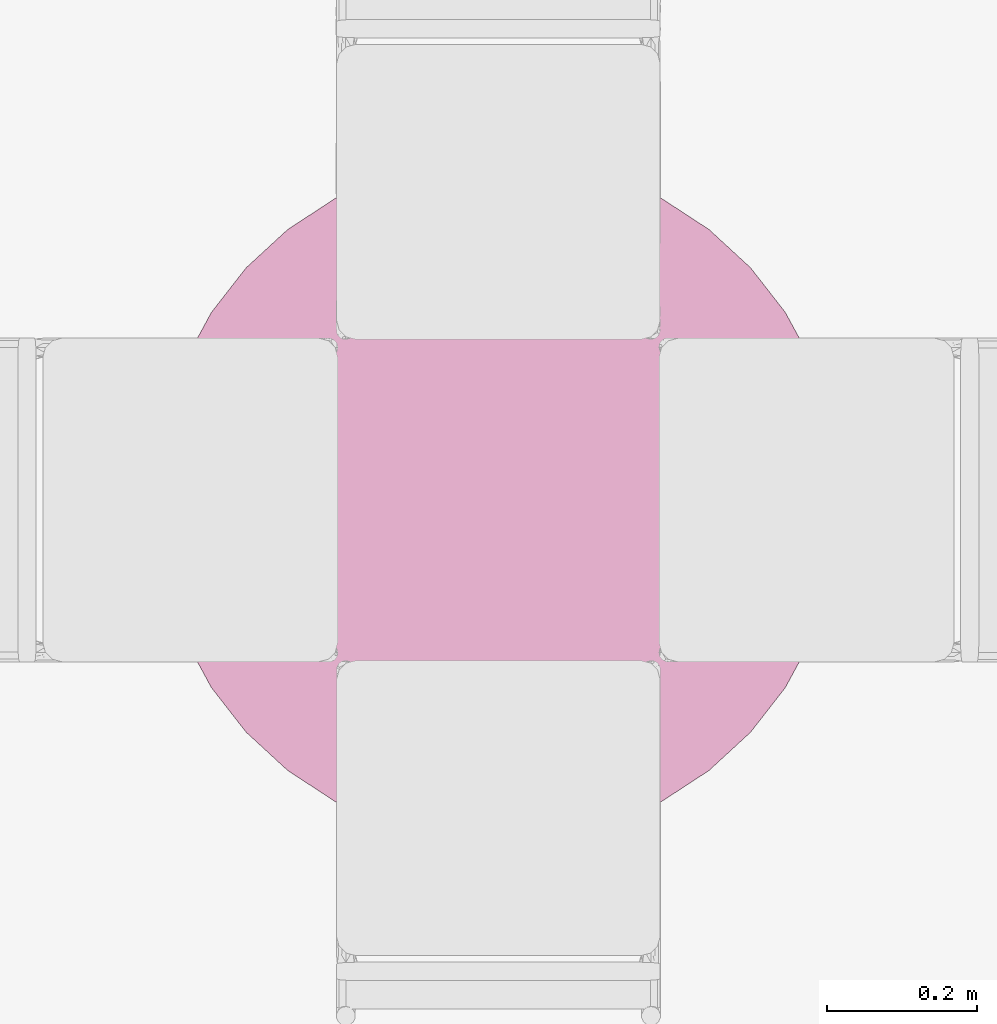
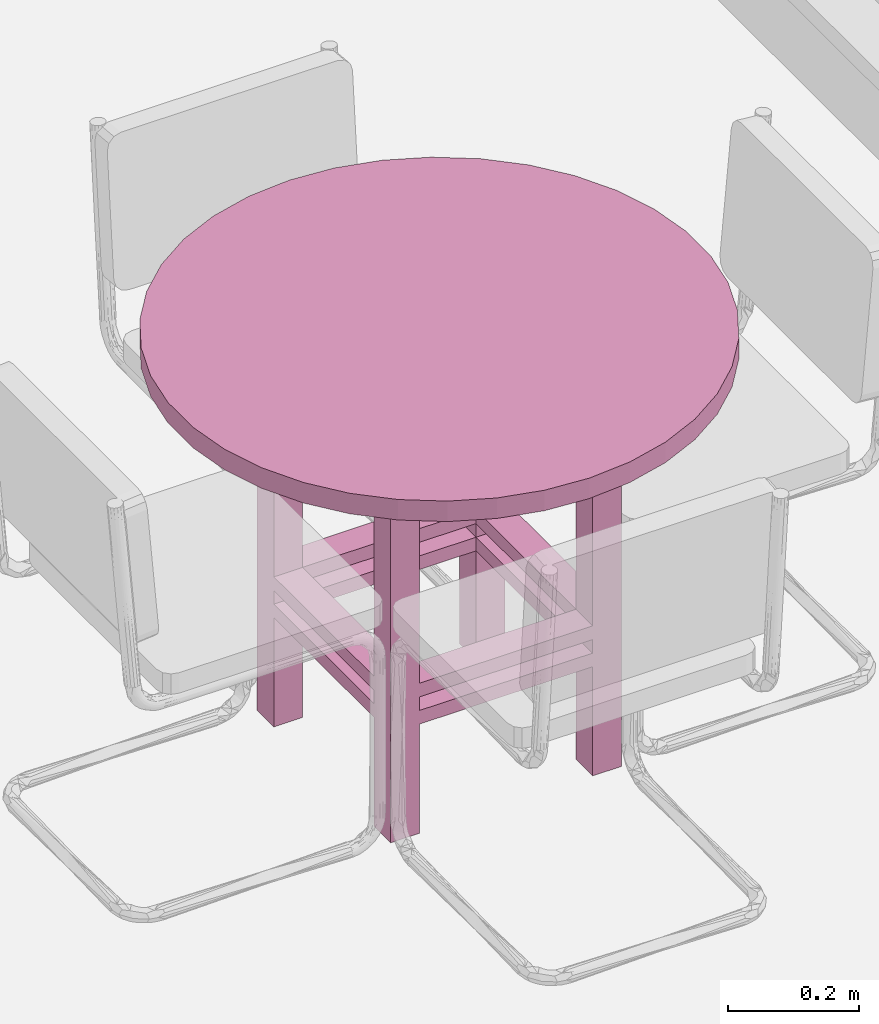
# One storey, part 10 of 11: 1 furnishing.
"""IFC2X3 building model written with IfcOpenShell, lengths in metres."""

from ifc_helpers import new_model, entity, si_unit, converted_unit, derived_unit, direction, frame, origin, place, context, subcontext, project, spatial, faceted_brep, source, transform, mapped, material, material_list, type_object, type_shapes, element, save


model = new_model("IFC2X3")

# Units and contexts
model_context = context("Model", 3, precision=1e-05, world=origin(), true_north=direction((6.12303176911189e-17, 1.0)))
body_context = subcontext(model_context, "Body", "Model", "MODEL_VIEW")
ifc_project = project(units=[si_unit("LENGTHUNIT", "METRE"), si_unit("AREAUNIT", "SQUARE_METRE"), si_unit("VOLUMEUNIT", "CUBIC_METRE"), converted_unit("PLANEANGLEUNIT", "DEGREE", entity("IfcRatioMeasure", 0.0174532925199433), si_unit("PLANEANGLEUNIT", "RADIAN"), dimensions=[0, 0, 0, 0, 0, 0, 0]), si_unit("MASSUNIT", "GRAM", prefix="KILO"), derived_unit("MASSDENSITYUNIT", [(si_unit("MASSUNIT", "GRAM", prefix="KILO"), 1), (si_unit("LENGTHUNIT", "METRE"), -3)]), derived_unit("MOMENTOFINERTIAUNIT", [(si_unit("LENGTHUNIT", "METRE"), 4)]), si_unit("TIMEUNIT", "SECOND"), si_unit("FREQUENCYUNIT", "HERTZ"), si_unit("THERMODYNAMICTEMPERATUREUNIT", "DEGREE_CELSIUS"), derived_unit("THERMALTRANSMITTANCEUNIT", [(si_unit("MASSUNIT", "GRAM", prefix="KILO"), 1), (si_unit("THERMODYNAMICTEMPERATUREUNIT", "KELVIN"), -1), (si_unit("TIMEUNIT", "SECOND"), -3)]), derived_unit("VOLUMETRICFLOWRATEUNIT", [(si_unit("LENGTHUNIT", "METRE"), 3), (si_unit("TIMEUNIT", "SECOND"), -1)]), si_unit("ELECTRICCURRENTUNIT", "AMPERE"), si_unit("ELECTRICVOLTAGEUNIT", "VOLT"), si_unit("POWERUNIT", "WATT"), si_unit("FORCEUNIT", "NEWTON", prefix="KILO"), si_unit("ILLUMINANCEUNIT", "LUX"), si_unit("LUMINOUSFLUXUNIT", "LUMEN"), si_unit("LUMINOUSINTENSITYUNIT", "CANDELA"), derived_unit("USERDEFINED", [(si_unit("MASSUNIT", "GRAM", prefix="KILO"), -1), (si_unit("LENGTHUNIT", "METRE"), -2), (si_unit("TIMEUNIT", "SECOND"), 3), (si_unit("LUMINOUSFLUXUNIT", "LUMEN"), 1)]), derived_unit("LINEARVELOCITYUNIT", [(si_unit("LENGTHUNIT", "METRE"), 1), (si_unit("TIMEUNIT", "SECOND"), -1)]), si_unit("PRESSUREUNIT", "PASCAL"), derived_unit("USERDEFINED", [(si_unit("LENGTHUNIT", "METRE"), -2), (si_unit("MASSUNIT", "GRAM", prefix="KILO"), 1), (si_unit("TIMEUNIT", "SECOND"), -2)]), derived_unit("LINEARFORCEUNIT", [(si_unit("MASSUNIT", "GRAM", prefix="KILO"), 1), (si_unit("LENGTHUNIT", "METRE"), 1), (si_unit("TIMEUNIT", "SECOND"), -2), (si_unit("LENGTHUNIT", "METRE"), -1)]), derived_unit("PLANARFORCEUNIT", [(si_unit("MASSUNIT", "GRAM", prefix="KILO"), 1), (si_unit("LENGTHUNIT", "METRE"), 1), (si_unit("TIMEUNIT", "SECOND"), -2), (si_unit("LENGTHUNIT", "METRE"), -2)])], contexts=[model_context])

# Site, building, storey
site_placement = place(None, origin())
site = spatial("IfcSite", under=ifc_project, at=site_placement, Name="Default", CompositionType="ELEMENT")
building_placement = place(site_placement, origin())
building = spatial("IfcBuilding", under=site, at=building_placement, CompositionType="ELEMENT")
storey_placement = place(building_placement, origin())
storey = spatial("IfcBuildingStorey", under=building, at=storey_placement, Name="Nivel 1", CompositionType="ELEMENT", Elevation=0.0)

# Furnishing
ifc_material_1 = material(Name="Pine")
ifc_material_2 = material(Name="Laminate, Linen, Matte")
ifc_material_list_1 = material_list([ifc_material_1, ifc_material_2])
ifc_material_list_2 = material_list([ifc_material_2, ifc_material_1])
furniture_type = type_object("IfcFurnitureType", Name="M_Table-Dining Round w Chairs:0915mm Diameter", material=ifc_material_list_2)
shared_shape = source(origin(), body_context, "Body", "Brep", [
    faceted_brep([(0.256231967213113, 0.0184713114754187, 0.6477), (0.256231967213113, -0.0323286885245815, 0.6477), (0.307031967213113, -0.0323286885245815, 0.6477), (0.307031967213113, 0.0184713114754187, 0.6477), (-0.0488680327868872, 0.0184713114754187, 0.0), (-0.0488680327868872, -0.0323286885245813, 0.0), (-0.0996680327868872, -0.0323286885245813, 0.0), (-0.0996680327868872, 0.0184713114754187, 0.0), (-0.0996680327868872, 0.0184713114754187, 0.6477), (-0.0488680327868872, 0.0184713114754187, 0.6477), (-0.0488680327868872, 0.0184713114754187, 0.2794), (0.256231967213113, 0.0184713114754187, 0.2794), (0.307031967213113, 0.0184713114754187, 0.0), (0.256231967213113, 0.0184713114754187, 0.0), (0.256231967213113, 0.0184713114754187, 0.2032), (-0.0488680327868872, 0.0184713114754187, 0.2032), (0.256231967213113, 0.0184713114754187, 0.2286), (0.256231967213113, 0.0184713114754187, 0.254), (-0.0488680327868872, 0.0184713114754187, 0.254), (-0.0488680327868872, 0.0184713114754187, 0.2286), (-0.0996680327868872, -0.0323286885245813, 0.6477), (-0.0996680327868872, -0.0323286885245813, 0.2032), (-0.0996680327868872, -0.337428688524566, 0.2032), (-0.0996680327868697, -0.337428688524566, 0.0), (-0.0996680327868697, -0.388228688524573, 0.0), (-0.0996680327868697, -0.388228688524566, 0.6477), (-0.0996680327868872, -0.337428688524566, 0.6477), (-0.0996680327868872, -0.337428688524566, 0.2794), (-0.0996680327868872, -0.0323286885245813, 0.2794), (-0.0996680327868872, -0.0323286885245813, 0.2286), (-0.0996680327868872, -0.0323286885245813, 0.254), (-0.0996680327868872, -0.337428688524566, 0.254), (-0.0996680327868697, -0.337428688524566, 0.2286), (-0.0488680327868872, -0.0323286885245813, 0.6477), (-0.0488680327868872, -0.0323286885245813, 0.2794), (0.256231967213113, -0.0323286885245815, 0.2794), (0.307031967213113, -0.0323286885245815, 0.2794), (0.307031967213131, -0.337428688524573, 0.2794), (0.307031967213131, -0.337428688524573, 0.6477), (0.307031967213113, -0.388228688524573, 0.6477), (0.307031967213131, -0.388228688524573, 0.0), (0.307031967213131, -0.337428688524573, 0.0), (0.307031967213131, -0.337428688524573, 0.2032), (0.307031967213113, -0.0323286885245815, 0.2032), (0.307031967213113, -0.0323286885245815, 0.0), (0.307031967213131, -0.337428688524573, 0.2286), (0.307031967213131, -0.337428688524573, 0.254), (0.307031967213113, -0.0323286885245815, 0.254), (0.307031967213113, -0.0323286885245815, 0.2286), (0.256231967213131, -0.388228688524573, 0.6477), (0.256231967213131, -0.388228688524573, 0.2794), (-0.0488680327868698, -0.388228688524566, 0.2794), (-0.0488680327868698, -0.388228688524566, 0.6477), (-0.0488680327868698, -0.388228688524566, 0.0), (-0.0488680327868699, -0.388228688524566, 0.2032), (0.256231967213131, -0.388228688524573, 0.2032), (0.256231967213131, -0.388228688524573, 0.0), (-0.0488680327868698, -0.388228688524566, 0.2286), (-0.0488680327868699, -0.388228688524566, 0.254), (0.256231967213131, -0.388228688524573, 0.254), (0.256231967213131, -0.388228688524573, 0.2286), (0.256231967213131, -0.337428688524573, 0.6477), (0.256231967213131, -0.337428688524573, 0.2794), (-0.0488680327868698, -0.337428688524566, 0.6477), (-0.0488680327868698, -0.337428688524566, 0.2794), (0.256231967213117, -0.0323286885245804, 0.2286), (0.256231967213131, -0.337428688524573, 0.2286), (-0.0488680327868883, -0.0323286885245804, 0.2032), (-0.0488680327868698, -0.337428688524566, 0.2032), (0.256231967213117, -0.0323286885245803, 0.2032), (0.256231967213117, -0.337428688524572, 0.2032), (-0.0488680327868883, -0.337428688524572, 0.2286), (-0.0488680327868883, -0.0323286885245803, 0.2286), (-0.0488680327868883, -0.0323286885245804, 0.254), (-0.0488680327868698, -0.337428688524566, 0.254), (0.256231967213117, -0.0323286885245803, 0.254), (0.256231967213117, -0.337428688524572, 0.254), (-0.0488680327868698, -0.337428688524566, 0.0), (0.256231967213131, -0.337428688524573, 0.0), (0.256231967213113, -0.0323286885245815, 0.0)], [[[0, 1, 2, 3]], [[4, 5, 6, 7]], [[8, 9, 10, 11, 0, 3, 12, 13, 14, 15, 4, 7], [16, 17, 18, 19]], [[20, 8, 7, 6, 21, 22, 23, 24, 25, 26, 27, 28], [29, 30, 31, 32]], [[33, 20, 28, 34]], [[9, 33, 34, 10]], [[1, 0, 11, 35]], [[2, 1, 35, 36]], [[12, 3, 2, 36, 37, 38, 39, 40, 41, 42, 43, 44], [45, 46, 47, 48]], [[40, 39, 49, 50, 51, 52, 25, 24, 53, 54, 55, 56], [57, 58, 59, 60]], [[61, 38, 37, 62]], [[49, 61, 62, 50]], [[63, 52, 51, 64]], [[26, 63, 64, 27]], [[65, 66, 45, 48]], [[67, 68, 22, 21]], [[66, 65, 69, 70]], [[71, 66, 70, 68]], [[72, 71, 68, 67]], [[65, 72, 67, 69]], [[35, 62, 37, 36]], [[73, 74, 31, 30]], [[62, 35, 75, 76]], [[64, 62, 76, 74]], [[34, 64, 74, 73]], [[35, 34, 73, 75]], [[74, 76, 59, 58]], [[75, 73, 18, 17]], [[76, 75, 47, 46]], [[62, 64, 51, 50]], [[64, 34, 28, 27]], [[34, 35, 11, 10]], [[68, 70, 55, 54]], [[69, 67, 15, 14]], [[70, 69, 43, 42]], [[66, 71, 57, 60]], [[71, 72, 29, 32]], [[72, 65, 16, 19]], [[71, 32, 31, 74]], [[77, 23, 22, 68]], [[57, 71, 74, 58]], [[53, 77, 68, 54]], [[66, 60, 59, 76]], [[78, 56, 55, 70]], [[45, 66, 76, 46]], [[41, 78, 70, 42]], [[65, 48, 47, 75]], [[79, 44, 43, 69]], [[16, 65, 75, 17]], [[13, 79, 69, 14]], [[72, 19, 18, 73]], [[5, 4, 15, 67]], [[29, 72, 73, 30]], [[6, 5, 67, 21]], [[53, 24, 23, 77]], [[13, 12, 44, 79]], [[56, 78, 41, 40]], [[49, 39, 38, 61]], [[52, 63, 26, 25]], [[9, 8, 20, 33]]]),
    faceted_brep([(0.332431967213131, 0.0438713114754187, 0.7239), (-0.125068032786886, 0.0438713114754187, 0.7239), (-0.125068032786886, -0.413628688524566, 0.7239), (0.332431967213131, -0.413628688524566, 0.7239), (0.307031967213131, 0.0184713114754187, 0.7239), (0.307031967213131, -0.388228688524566, 0.7239), (-0.0996680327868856, -0.388228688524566, 0.7239), (-0.0996680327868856, 0.0184713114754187, 0.7239), (0.332431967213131, 0.0438713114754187, 0.6477), (0.332431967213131, -0.413628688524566, 0.6477), (-0.125068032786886, -0.413628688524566, 0.6477), (-0.125068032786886, 0.0438713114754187, 0.6477), (0.307031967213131, 0.0184713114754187, 0.6477), (-0.0996680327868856, 0.0184713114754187, 0.6477), (-0.0996680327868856, -0.388228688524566, 0.6477), (0.307031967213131, -0.388228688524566, 0.6477)], [[[0, 1, 2, 3], [4, 5, 6, 7]], [[8, 9, 10, 11], [12, 13, 14, 15]], [[1, 0, 8, 11]], [[2, 1, 11, 10]], [[3, 2, 10, 9]], [[0, 3, 9, 8]], [[5, 4, 12, 15]], [[6, 5, 15, 14]], [[7, 6, 14, 13]], [[4, 7, 13, 12]]]),
    faceted_brep([(-0.27932169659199, -0.435107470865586, 0.723900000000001), (-0.315284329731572, -0.36865434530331, 0.723900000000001), (-0.339818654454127, -0.297188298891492, 0.723900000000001), (-0.352255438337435, -0.222658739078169, 0.723900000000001), (-0.352255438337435, -0.147098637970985, 0.723900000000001), (-0.339818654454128, -0.0725690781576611, 0.723900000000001), (-0.315284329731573, -0.00110303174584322, 0.723900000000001), (-0.279321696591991, 0.0653500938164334, 0.723900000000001), (-0.232911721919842, 0.1249776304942, 0.7239), (-0.177320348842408, 0.176153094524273, 0.7239), (-0.114063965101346, 0.217480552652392, 0.7239), (-0.0448680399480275, 0.247832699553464, 0.7239), (0.0283799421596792, 0.266381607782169, 0.7239), (0.103681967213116, 0.272621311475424, 0.723899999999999), (0.178983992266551, 0.266381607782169, 0.723899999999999), (0.252231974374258, 0.247832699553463, 0.723899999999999), (0.321427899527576, 0.217480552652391, 0.723899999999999), (0.384684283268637, 0.176153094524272, 0.723899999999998), (0.440275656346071, 0.124977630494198, 0.723899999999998), (0.48668563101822, 0.0653500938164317, 0.723899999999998), (0.522648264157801, -0.00110303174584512, 0.723899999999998), (0.547182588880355, -0.072569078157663, 0.723899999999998), (0.559619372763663, -0.147098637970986, 0.723899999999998), (0.559619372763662, -0.22265873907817, 0.723899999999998), (0.547182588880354, -0.297188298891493, 0.723899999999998), (0.522648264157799, -0.368654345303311, 0.723899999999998), (0.486685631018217, -0.435107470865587, 0.723899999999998), (0.440275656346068, -0.494735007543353, 0.723899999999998), (0.384684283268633, -0.545910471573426, 0.723899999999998), (0.321427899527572, -0.587237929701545, 0.723899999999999), (0.252231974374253, -0.617590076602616, 0.723899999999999), (0.178983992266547, -0.636138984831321, 0.723899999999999), (0.103681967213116, -0.642378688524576, 0.723899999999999), (0.0283799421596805, -0.636138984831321, 0.7239), (-0.0448680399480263, -0.617590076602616, 0.7239), (-0.114063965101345, -0.587237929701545, 0.7239), (-0.177320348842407, -0.545910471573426, 0.7239), (-0.232911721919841, -0.494735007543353, 0.7239), (-0.315284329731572, -0.36865434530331, 0.762000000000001), (-0.27932169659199, -0.435107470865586, 0.762000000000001), (-0.232911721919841, -0.494735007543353, 0.762), (-0.177320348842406, -0.545910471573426, 0.762), (-0.114063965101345, -0.587237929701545, 0.762), (-0.0448680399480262, -0.617590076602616, 0.762), (0.0283799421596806, -0.636138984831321, 0.762), (0.103681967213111, -0.642378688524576, 0.761999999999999), (0.178983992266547, -0.636138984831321, 0.761999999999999), (0.252231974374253, -0.617590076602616, 0.761999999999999), (0.321427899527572, -0.587237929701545, 0.761999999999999), (0.384684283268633, -0.545910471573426, 0.761999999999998), (0.440275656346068, -0.494735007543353, 0.761999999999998), (0.486685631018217, -0.435107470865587, 0.761999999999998), (0.522648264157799, -0.368654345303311, 0.761999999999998), (0.547182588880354, -0.297188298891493, 0.761999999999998), (0.559619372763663, -0.22265873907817, 0.761999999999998), (0.559619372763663, -0.147098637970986, 0.761999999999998), (0.547182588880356, -0.072569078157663, 0.761999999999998), (0.522648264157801, -0.00110303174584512, 0.761999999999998), (0.48668563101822, 0.0653500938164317, 0.761999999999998), (0.440275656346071, 0.124977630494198, 0.761999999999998), (0.384684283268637, 0.176153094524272, 0.761999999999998), (0.321427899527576, 0.217480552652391, 0.761999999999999), (0.252231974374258, 0.247832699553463, 0.761999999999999), (0.178983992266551, 0.266381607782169, 0.761999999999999), (0.103681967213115, 0.272621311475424, 0.761999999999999), (0.0283799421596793, 0.266381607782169, 0.762), (-0.0448680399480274, 0.247832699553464, 0.762), (-0.114063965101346, 0.217480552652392, 0.762), (-0.177320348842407, 0.176153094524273, 0.762), (-0.232911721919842, 0.1249776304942, 0.762), (-0.279321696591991, 0.0653500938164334, 0.762000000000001), (-0.315284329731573, -0.00110303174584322, 0.762000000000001), (-0.339818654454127, -0.0725690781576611, 0.762000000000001), (-0.352255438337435, -0.147098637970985, 0.762000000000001), (-0.352255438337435, -0.222658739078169, 0.762000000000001), (-0.339818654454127, -0.297188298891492, 0.762000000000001)], [[[0, 1, 2, 3, 4, 5, 6, 7, 8, 9, 10, 11, 12, 13, 14, 15, 16, 17, 18, 19, 20, 21, 22, 23, 24, 25, 26, 27, 28, 29, 30, 31, 32, 33, 34, 35, 36, 37]], [[38, 39, 40, 41, 42, 43, 44, 45, 46, 47, 48, 49, 50, 51, 52, 53, 54, 55, 56, 57, 58, 59, 60, 61, 62, 63, 64, 65, 66, 67, 68, 69, 70, 71, 72, 73, 74, 75]], [[44, 33, 32, 45]], [[42, 35, 34, 43]], [[34, 33, 44, 43]], [[36, 35, 42, 41]], [[0, 37, 40, 39]], [[75, 74, 3, 2]], [[39, 38, 1, 0]], [[41, 40, 37, 36]], [[1, 38, 75, 2]], [[74, 73, 4, 3]], [[6, 71, 70, 7]], [[4, 73, 72, 5]], [[71, 6, 5, 72]], [[7, 70, 69, 8]], [[66, 65, 12, 11]], [[9, 68, 67, 10]], [[10, 67, 66, 11]], [[69, 68, 9, 8]], [[12, 65, 64, 13]], [[14, 13, 64, 63]], [[16, 15, 62, 61]], [[63, 62, 15, 14]], [[61, 60, 17, 16]], [[57, 56, 21, 20]], [[18, 59, 58, 19]], [[19, 58, 57, 20]], [[59, 18, 17, 60]], [[21, 56, 55, 22]], [[55, 54, 23, 22]], [[25, 52, 51, 26]], [[23, 54, 53, 24]], [[52, 25, 24, 53]], [[26, 51, 50, 27]], [[47, 46, 31, 30]], [[28, 49, 48, 29]], [[29, 48, 47, 30]], [[50, 49, 28, 27]], [[31, 46, 45, 32]]]),
])
type_shapes(furniture_type, [shared_shape])
furnishing_placement = place(storey_placement, frame((1.87063886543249, 0.150104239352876, 0.0), z_axis=(0.0, 0.0, 1.0), x_axis=(-1.0, 0.0, 0.0)))
element("IfcFurnishingElement", 1, at=furnishing_placement, inside=storey, type_object=furniture_type, material=ifc_material_list_1, Name="M_Table-Dining Round w Chairs:0915mm Diameter", ObjectType="M_Table-Dining Round w Chairs:0915mm Diameter", context=body_context, shape_type="MappedRepresentation", body=[
    mapped(shared_shape, transform((0.0, 0.0, 0.0), scale=1.0)),
])

save(model, "model.ifc")
